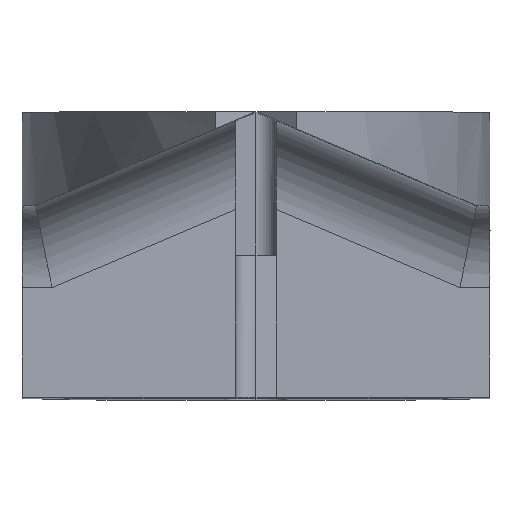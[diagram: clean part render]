
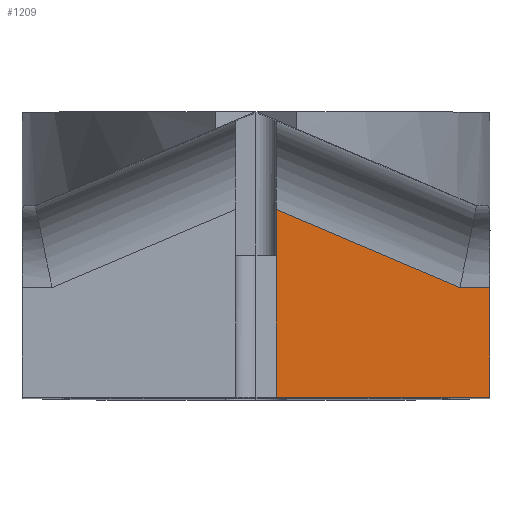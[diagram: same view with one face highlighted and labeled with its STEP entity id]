
A CAD part, top view. The second image highlights one B-rep face of the part: STEP entity #1209.
In plain terms, the highlighted planar face has unit normal (0, 0, 1).
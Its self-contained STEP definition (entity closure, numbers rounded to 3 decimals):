
#1 = VERTEX_POINT ( 'NONE', #3139 ) ;
#21 = EDGE_CURVE ( 'NONE', #1552, #2623, #1344, .T. ) ;
#63 = FACE_OUTER_BOUND ( 'NONE', #2899, .T. ) ;
#192 = CARTESIAN_POINT ( 'NONE',  ( 0.5, 0., 10.5 ) ) ;
#212 = VECTOR ( 'NONE', #2452, 1000. ) ;
#485 = CARTESIAN_POINT ( 'NONE',  ( 2.365, 3.823, 10.5 ) ) ;
#537 = DIRECTION ( 'NONE',  ( -1., 0., 0. ) ) ;
#562 = EDGE_CURVE ( 'NONE', #1370, #1552, #2111, .T. ) ;
#630 = CARTESIAN_POINT ( 'NONE',  ( 5.75, 2.7, 10.5 ) ) ;
#685 = DIRECTION ( 'NONE',  ( 0., 1., 0. ) ) ;
#729 = VECTOR ( 'NONE', #2383, 1000. ) ;
#808 = CARTESIAN_POINT ( 'NONE',  ( 0.5, 4.615, 10.5 ) ) ;
#872 = ORIENTED_EDGE ( 'NONE', *, *, #1567, .T. ) ;
#1209 = ADVANCED_FACE ( 'NONE', ( #63 ), #1664, .T. ) ;
#1219 = ORIENTED_EDGE ( 'NONE', *, *, #1886, .T. ) ;
#1255 = CARTESIAN_POINT ( 'NONE',  ( 5.75, 2.321, 10.5 ) ) ;
#1284 = CARTESIAN_POINT ( 'NONE',  ( 3.109, 0., 10.5 ) ) ;
#1344 = LINE ( 'NONE', #2424, #2078 ) ;
#1370 = VERTEX_POINT ( 'NONE', #2012 ) ;
#1417 = DIRECTION ( 'NONE',  ( 1., 0., 0. ) ) ;
#1462 = VECTOR ( 'NONE', #537, 1000. ) ;
#1552 = VERTEX_POINT ( 'NONE', #2288 ) ;
#1567 = EDGE_CURVE ( 'NONE', #2803, #1, #2946, .T. ) ;
#1657 = VECTOR ( 'NONE', #2529, 1000. ) ;
#1664 = PLANE ( 'NONE',  #2493 ) ;
#1886 = EDGE_CURVE ( 'NONE', #1370, #2803, #2682, .T. ) ;
#1894 = ORIENTED_EDGE ( 'NONE', *, *, #2297, .F. ) ;
#1903 = ORIENTED_EDGE ( 'NONE', *, *, #562, .F. ) ;
#2012 = CARTESIAN_POINT ( 'NONE',  ( 5.75, 0., 10.5 ) ) ;
#2078 = VECTOR ( 'NONE', #685, 1000. ) ;
#2111 = LINE ( 'NONE', #1284, #1462 ) ;
#2174 = DIRECTION ( 'NONE',  ( 0., 0., 1. ) ) ;
#2288 = CARTESIAN_POINT ( 'NONE',  ( 0.5, 0., 10.5 ) ) ;
#2297 = EDGE_CURVE ( 'NONE', #2623, #1, #2833, .T. ) ;
#2339 = ORIENTED_EDGE ( 'NONE', *, *, #21, .F. ) ;
#2365 = CARTESIAN_POINT ( 'NONE',  ( 3.125, 2.7, 10.5 ) ) ;
#2383 = DIRECTION ( 'NONE',  ( 0., 1., 0. ) ) ;
#2424 = CARTESIAN_POINT ( 'NONE',  ( 0.5, 3.5, 10.5 ) ) ;
#2452 = DIRECTION ( 'NONE',  ( 0.921, -0.391, 0. ) ) ;
#2493 = AXIS2_PLACEMENT_3D ( 'NONE', #192, #2174, #1417 ) ;
#2529 = DIRECTION ( 'NONE',  ( -1., 0., 0. ) ) ;
#2623 = VERTEX_POINT ( 'NONE', #808 ) ;
#2682 = LINE ( 'NONE', #1255, #729 ) ;
#2803 = VERTEX_POINT ( 'NONE', #630 ) ;
#2833 = LINE ( 'NONE', #485, #212 ) ;
#2899 = EDGE_LOOP ( 'NONE', ( #1903, #1219, #872, #1894, #2339 ) ) ;
#2946 = LINE ( 'NONE', #2365, #1657 ) ;
#3139 = CARTESIAN_POINT ( 'NONE',  ( 5.012, 2.7, 10.5 ) ) ;
